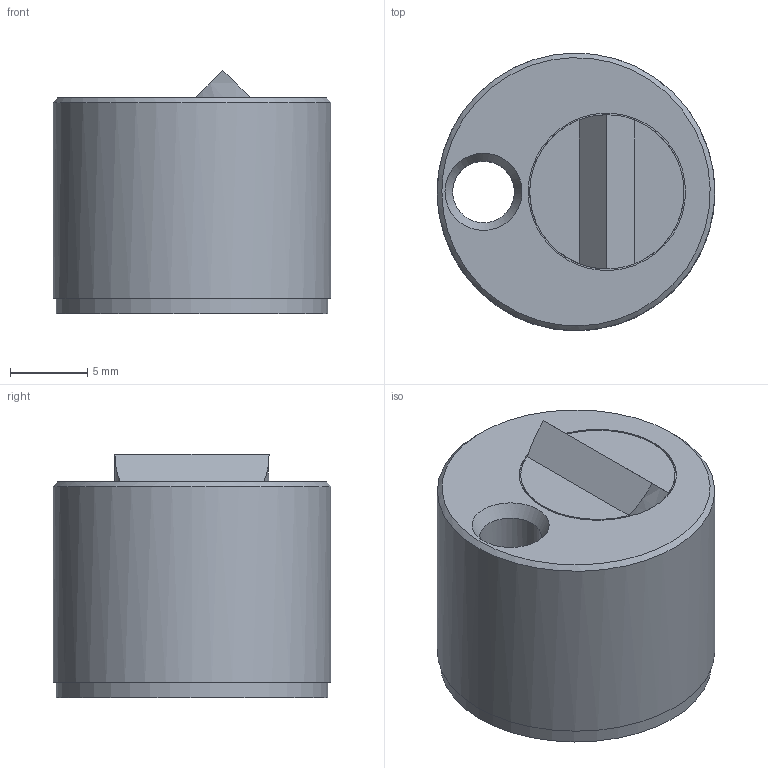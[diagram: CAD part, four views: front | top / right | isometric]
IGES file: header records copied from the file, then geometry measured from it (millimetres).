
Start section: C
Global section: file name: TRMZ5130-18.igs; native system: By Siemens PLM Incorporated; preprocessor: XPlus GENERIC/IGES 18.0.17; author: Author; organization: Title; date: 20240725.135316; units: millimetre
Bounding box: 18 x 18 x 15.8 mm (x, y, z)
Volume: 3410.1 mm3; surface area: 1481.2 mm2
Topology: 1 solids, 1 shells, 290 faces, 761 edges, 507 vertices
Faces by surface type: bspline 290
